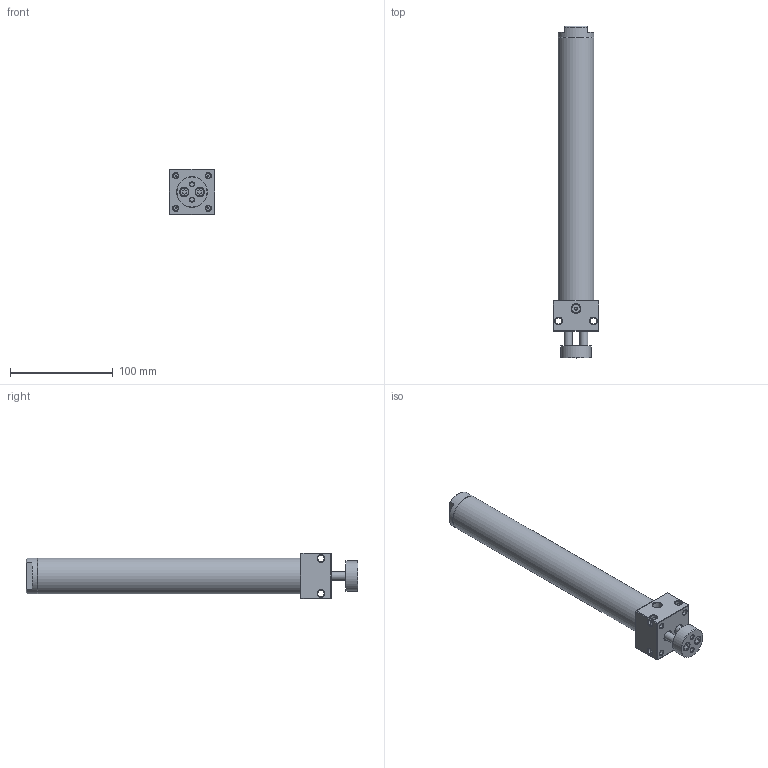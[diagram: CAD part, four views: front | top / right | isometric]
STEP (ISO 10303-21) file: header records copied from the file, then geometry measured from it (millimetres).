
FILE_DESCRIPTION((''),'2;1');
FILE_NAME('I:\3D電子目錄\氣缸\DBT\DBT\DBT30\DBT30x200.stp','2007-10-08T08:58:18',('Administrator'),(''),'Autodesk Inventor 2008','Autodesk Inventor 2008','');
FILE_SCHEMA(('AUTOMOTIVE_DESIGN { 1 0 10303 214 1 1 1 1 }'));
Length unit declared in the file: millimetre
Products named in the file (1): DBT30x200
Bounding box: 44 x 323 x 44 mm (x, y, z)
Volume: 145893.3 mm3; surface area: 79307.5 mm2
Topology: 5 solids, 5 shells, 167 faces, 388 edges, 234 vertices
Faces by surface type: plane 56, bspline 53, cone 37, cylinder 21
Full cylindrical faces by diameter (mm): 4.3 x1, 5 x1, 8 x3, 8.5 x1, 10 x1, 11 x1, 18 x1, 28.8 x2, 30 x2, 30.8 x2, 32 x2, 32.2 x2, 35 x2
Entity records: 5064 total; most frequent: CARTESIAN_POINT 1888, DIRECTION 604, ORIENTED_EDGE 538, EDGE_LOOP 298, EDGE_CURVE 269, AXIS2_PLACEMENT_3D 256, VERTEX_POINT 207, FACE_OUTER_BOUND 167
